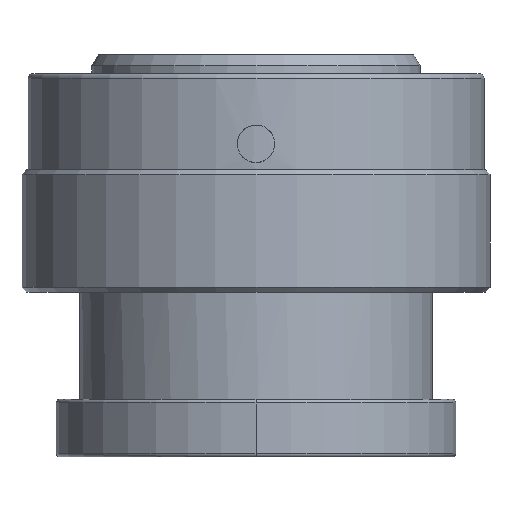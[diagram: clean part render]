
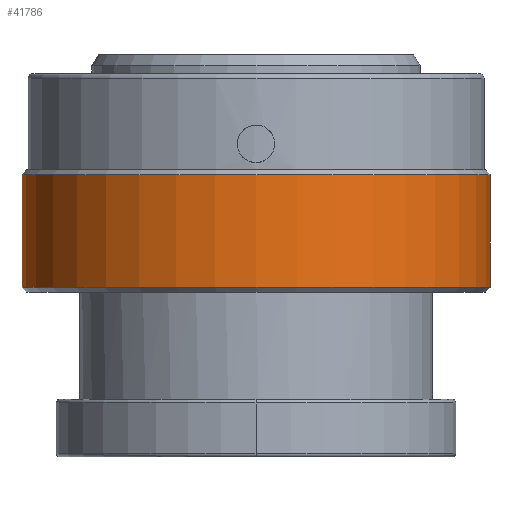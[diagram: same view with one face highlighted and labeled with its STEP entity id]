
A CAD part, left-side view. The second image highlights one B-rep face of the part: STEP entity #41786.
In plain terms, the highlighted cylindrical face has radius 24.765 mm (diameter 49.53 mm), a partial arc.
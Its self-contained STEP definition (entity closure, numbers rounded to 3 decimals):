
#15364=CARTESIAN_POINT('',(0.,0.,-10.668));
#15365=DIRECTION('',(0.,0.,1.));
#15366=DIRECTION('',(0.,1.,0.));
#15367=AXIS2_PLACEMENT_3D('',#15364,#15365,#15366);
#15369=DIRECTION('',(0.,0.,1.));
#15370=VECTOR('',#15369,11.938);
#15371=CARTESIAN_POINT('',(0.,-24.765,-22.606));
#15372=LINE('',#15371,#15370);
#15373=CARTESIAN_POINT('',(0.,0.,-22.606));
#15374=DIRECTION('',(0.,0.,1.));
#15375=DIRECTION('',(0.,1.,0.));
#15376=AXIS2_PLACEMENT_3D('',#15373,#15374,#15375);
#15378=DIRECTION('',(0.,0.,1.));
#15379=VECTOR('',#15378,11.938);
#15380=CARTESIAN_POINT('',(0.,24.765,-22.606));
#15381=LINE('',#15380,#15379);
#15786=CARTESIAN_POINT('',(0.,-24.765,-10.668));
#15787=CARTESIAN_POINT('',(0.,24.765,-10.668));
#15788=VERTEX_POINT('',#15786);
#15789=VERTEX_POINT('',#15787);
#15790=CARTESIAN_POINT('',(0.,-24.765,-22.606));
#15791=CARTESIAN_POINT('',(0.,24.765,-22.606));
#15792=VERTEX_POINT('',#15790);
#15793=VERTEX_POINT('',#15791);
#41774=CARTESIAN_POINT('',(0.,0.,1.156));
#41775=DIRECTION('',(0.,0.,-1.));
#41776=DIRECTION('',(0.,-1.,0.));
#41777=AXIS2_PLACEMENT_3D('',#41774,#41775,#41776);
#41778=CYLINDRICAL_SURFACE('',#41777,24.765);
#41779=ORIENTED_EDGE('',*,*,#41768,.T.);
#41780=ORIENTED_EDGE('',*,*,#25653,.F.);
#41782=ORIENTED_EDGE('',*,*,#41781,.F.);
#41783=ORIENTED_EDGE('',*,*,#25650,.T.);
#41784=EDGE_LOOP('',(#41779,#41780,#41782,#41783));
#41785=FACE_OUTER_BOUND('',#41784,.F.);
#41786=ADVANCED_FACE('',(#41785),#41778,.T.);
#15368=CIRCLE('',#15367,24.765);
#15377=CIRCLE('',#15376,24.765);
#25650=EDGE_CURVE('',#15793,#15789,#15381,.T.);
#25653=EDGE_CURVE('',#15792,#15788,#15372,.T.);
#41768=EDGE_CURVE('',#15789,#15788,#15368,.T.);
#41781=EDGE_CURVE('',#15793,#15792,#15377,.T.);
